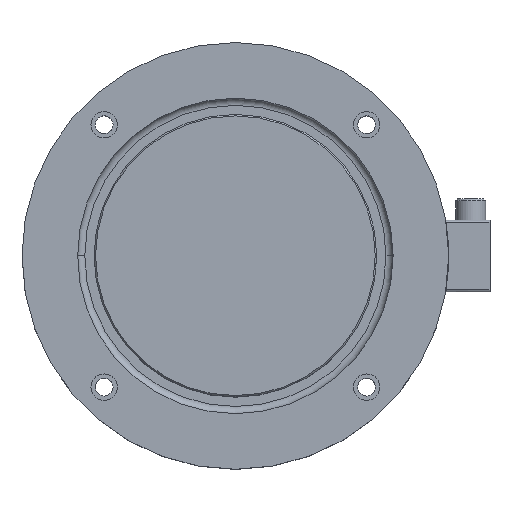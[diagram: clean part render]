
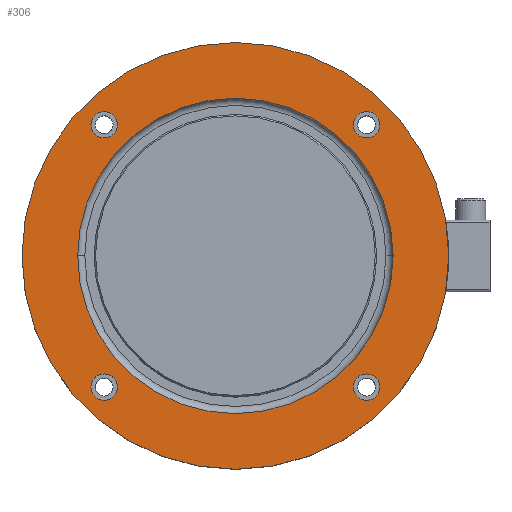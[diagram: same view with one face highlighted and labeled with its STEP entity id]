
A CAD part, top view. The second image highlights one B-rep face of the part: STEP entity #306.
In plain terms, the highlighted planar face has unit normal (0, 0, 1) as drawn and (0, 1, 0) by its records, which use the part's own axes.
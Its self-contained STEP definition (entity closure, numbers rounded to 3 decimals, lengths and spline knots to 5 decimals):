
#306=ADVANCED_FACE('0:178',(#577,#578,#579,#580,#581,#582),#583,.T.);
#577=FACE_OUTER_BOUND('',#861,.T.);
#578=FACE_BOUND('',#862,.T.);
#579=FACE_BOUND('',#863,.T.);
#580=FACE_BOUND('',#864,.T.);
#581=FACE_BOUND('',#865,.T.);
#582=FACE_BOUND('',#866,.T.);
#583=PLANE('',#867);
#861=EDGE_LOOP('',(#1402,#1403));
#862=EDGE_LOOP('',(#1404,#1405));
#863=EDGE_LOOP('',(#1406,#1407));
#864=EDGE_LOOP('',(#1408,#1409));
#865=EDGE_LOOP('',(#1410,#1411));
#866=EDGE_LOOP('',(#1412,#1413));
#867=AXIS2_PLACEMENT_3D('',#1414,#1415,#1416);
#1402=ORIENTED_EDGE('',*,*,#1783,.F.);
#1403=ORIENTED_EDGE('',*,*,#1844,.F.);
#1404=ORIENTED_EDGE('',*,*,#1733,.F.);
#1405=ORIENTED_EDGE('',*,*,#1867,.F.);
#1406=ORIENTED_EDGE('',*,*,#1738,.F.);
#1407=ORIENTED_EDGE('',*,*,#1864,.F.);
#1408=ORIENTED_EDGE('',*,*,#1743,.F.);
#1409=ORIENTED_EDGE('',*,*,#1861,.F.);
#1410=ORIENTED_EDGE('',*,*,#1748,.F.);
#1411=ORIENTED_EDGE('',*,*,#1858,.F.);
#1412=ORIENTED_EDGE('',*,*,#1778,.F.);
#1413=ORIENTED_EDGE('',*,*,#1846,.F.);
#1414=CARTESIAN_POINT('',(0.0775,0.073,0.0));
#1415=DIRECTION('',(0.0,1.0,0.0));
#1416=DIRECTION('',(1.0,0.0,-0.0));
#1733=EDGE_CURVE('0:321',#2022,#2018,#2024,.T.);
#1738=EDGE_CURVE('0:315',#2031,#2027,#2033,.T.);
#1743=EDGE_CURVE('0:309',#2040,#2036,#2042,.T.);
#1748=EDGE_CURVE('0:303',#2049,#2045,#2051,.T.);
#1778=EDGE_CURVE('0:276',#2097,#2094,#2099,.T.);
#1783=EDGE_CURVE('0:270',#2106,#2102,#2108,.T.);
#1844=EDGE_CURVE('0:270',#2102,#2106,#2199,.T.);
#1846=EDGE_CURVE('0:276',#2094,#2097,#2201,.T.);
#1858=EDGE_CURVE('0:303',#2045,#2049,#2213,.T.);
#1861=EDGE_CURVE('0:309',#2036,#2040,#2216,.T.);
#1864=EDGE_CURVE('0:315',#2027,#2031,#2219,.T.);
#1867=EDGE_CURVE('0:321',#2018,#2022,#2222,.T.);
#2018=VERTEX_POINT('',#2419);
#2022=VERTEX_POINT('',#2424);
#2024=CIRCLE('',#2427,0.00925);
#2027=VERTEX_POINT('',#2430);
#2031=VERTEX_POINT('',#2435);
#2033=CIRCLE('',#2438,0.00925);
#2036=VERTEX_POINT('',#2441);
#2040=VERTEX_POINT('',#2446);
#2042=CIRCLE('',#2449,0.00925);
#2045=VERTEX_POINT('',#2452);
#2049=VERTEX_POINT('',#2457);
#2051=CIRCLE('',#2460,0.00925);
#2094=VERTEX_POINT('',#2507);
#2097=VERTEX_POINT('',#2511);
#2099=CIRCLE('',#2514,0.1105);
#2102=VERTEX_POINT('',#2517);
#2106=VERTEX_POINT('NONE',#2522);
#2108=CIRCLE('',#2525,0.1495);
#2199=CIRCLE('',#2976,0.1495);
#2201=CIRCLE('',#2978,0.1105);
#2213=CIRCLE('',#2990,0.00925);
#2216=CIRCLE('',#2993,0.00925);
#2219=CIRCLE('',#2996,0.00925);
#2222=CIRCLE('',#2999,0.00925);
#2419=CARTESIAN_POINT('',(-0.09192,0.073,-0.08267));
#2424=CARTESIAN_POINT('',(-0.09192,0.073,-0.10117));
#2427=AXIS2_PLACEMENT_3D('',#3263,#3264,#3265);
#2430=CARTESIAN_POINT('',(-0.09192,0.073,0.10117));
#2435=CARTESIAN_POINT('',(-0.09192,0.073,0.08267));
#2438=AXIS2_PLACEMENT_3D('',#3271,#3272,#3273);
#2441=CARTESIAN_POINT('',(0.09192,0.073,0.10117));
#2446=CARTESIAN_POINT('',(0.09192,0.073,0.08267));
#2449=AXIS2_PLACEMENT_3D('',#3279,#3280,#3281);
#2452=CARTESIAN_POINT('',(0.09192,0.073,-0.08267));
#2457=CARTESIAN_POINT('',(0.09192,0.073,-0.10117));
#2460=AXIS2_PLACEMENT_3D('',#3287,#3288,#3289);
#2507=CARTESIAN_POINT('',(0.,0.073,0.1105));
#2511=CARTESIAN_POINT('',(0.,0.073,-0.1105));
#2514=AXIS2_PLACEMENT_3D('',#3347,#3348,#3349);
#2517=CARTESIAN_POINT('',(0.,0.073,-0.1495));
#2522=CARTESIAN_POINT('',(0.,0.073,0.1495));
#2525=AXIS2_PLACEMENT_3D('',#3355,#3356,#3357);
#2976=AXIS2_PLACEMENT_3D('',#3451,#3452,#3453);
#2978=AXIS2_PLACEMENT_3D('',#3454,#3455,#3456);
#2990=AXIS2_PLACEMENT_3D('',#3472,#3473,#3474);
#2993=AXIS2_PLACEMENT_3D('',#3478,#3479,#3480);
#2996=AXIS2_PLACEMENT_3D('',#3484,#3485,#3486);
#2999=AXIS2_PLACEMENT_3D('',#3490,#3491,#3492);
#3263=CARTESIAN_POINT('',(-0.09192,0.073,-0.09192));
#3264=DIRECTION('',(-0.0,1.0,0.0));
#3265=DIRECTION('',(1.0,0.0,0.));
#3271=CARTESIAN_POINT('',(-0.09192,0.073,0.09192));
#3272=DIRECTION('',(0.0,1.0,0.0));
#3273=DIRECTION('',(0.,0.0,-1.0));
#3279=CARTESIAN_POINT('',(0.09192,0.073,0.09192));
#3280=DIRECTION('',(0.0,1.0,0.0));
#3281=DIRECTION('',(-1.0,0.0,0.));
#3287=CARTESIAN_POINT('',(0.09192,0.073,-0.09192));
#3288=DIRECTION('',(0.0,1.0,0.0));
#3289=DIRECTION('',(0.0,0.0,1.0));
#3347=CARTESIAN_POINT('',(0.0,0.073,0.0));
#3348=DIRECTION('',(0.0,1.0,0.0));
#3349=DIRECTION('',(0.0,0.0,1.0));
#3355=CARTESIAN_POINT('',(0.0,0.073,0.0));
#3356=DIRECTION('',(0.0,-1.0,0.0));
#3357=DIRECTION('',(0.0,0.0,-1.0));
#3451=CARTESIAN_POINT('',(0.0,0.073,0.0));
#3452=DIRECTION('',(0.0,-1.0,0.0));
#3453=DIRECTION('',(0.0,0.0,-1.0));
#3454=CARTESIAN_POINT('',(0.0,0.073,0.0));
#3455=DIRECTION('',(0.0,1.0,0.0));
#3456=DIRECTION('',(0.0,0.0,1.0));
#3472=CARTESIAN_POINT('',(0.09192,0.073,-0.09192));
#3473=DIRECTION('',(0.0,1.0,0.0));
#3474=DIRECTION('',(0.0,0.0,1.0));
#3478=CARTESIAN_POINT('',(0.09192,0.073,0.09192));
#3479=DIRECTION('',(0.0,1.0,0.0));
#3480=DIRECTION('',(-1.0,0.0,0.));
#3484=CARTESIAN_POINT('',(-0.09192,0.073,0.09192));
#3485=DIRECTION('',(0.0,1.0,0.0));
#3486=DIRECTION('',(0.,0.0,-1.0));
#3490=CARTESIAN_POINT('',(-0.09192,0.073,-0.09192));
#3491=DIRECTION('',(-0.0,1.0,0.0));
#3492=DIRECTION('',(1.0,0.0,0.));
